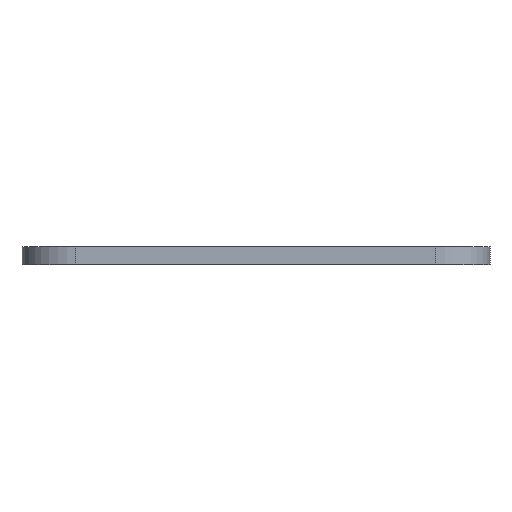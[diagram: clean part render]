
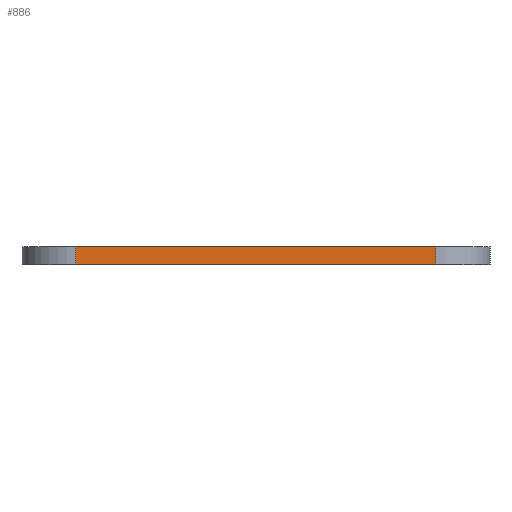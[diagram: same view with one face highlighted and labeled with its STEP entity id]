
A CAD part, left-side view. The second image highlights one B-rep face of the part: STEP entity #886.
In plain terms, the highlighted planar face has unit normal (-1, 0, 0).
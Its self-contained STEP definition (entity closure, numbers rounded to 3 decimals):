
#101 = ORIENTED_EDGE ( 'NONE', *, *, #329, .T. ) ;
#122 = LINE ( 'NONE', #1086, #1110 ) ;
#153 = LINE ( 'NONE', #161, #705 ) ;
#161 = CARTESIAN_POINT ( 'NONE',  ( -95., -50., 5. ) ) ;
#173 = VERTEX_POINT ( 'NONE', #655 ) ;
#227 = VECTOR ( 'NONE', #510, 1000. ) ;
#242 = DIRECTION ( 'NONE',  ( 0., 1., 0. ) ) ;
#250 = CARTESIAN_POINT ( 'NONE',  ( -95., -50., 5. ) ) ;
#301 = DIRECTION ( 'NONE',  ( 0., 0., -1. ) ) ;
#329 = EDGE_CURVE ( 'NONE', #610, #846, #122, .T. ) ;
#338 = EDGE_CURVE ( 'NONE', #173, #610, #638, .T. ) ;
#363 = ORIENTED_EDGE ( 'NONE', *, *, #1038, .F. ) ;
#407 = CARTESIAN_POINT ( 'NONE',  ( -95., 65., 5. ) ) ;
#439 = FACE_OUTER_BOUND ( 'NONE', #931, .T. ) ;
#510 = DIRECTION ( 'NONE',  ( 0., -1., 0. ) ) ;
#610 = VERTEX_POINT ( 'NONE', #740 ) ;
#638 = LINE ( 'NONE', #989, #977 ) ;
#655 = CARTESIAN_POINT ( 'NONE',  ( -95., 50., 5. ) ) ;
#705 = VECTOR ( 'NONE', #836, 1000. ) ;
#740 = CARTESIAN_POINT ( 'NONE',  ( -95., 50., 0. ) ) ;
#766 = ORIENTED_EDGE ( 'NONE', *, *, #338, .T. ) ;
#771 = CARTESIAN_POINT ( 'NONE',  ( -95., -50., 0. ) ) ;
#801 = CARTESIAN_POINT ( 'NONE',  ( -95., 65., 5. ) ) ;
#811 = AXIS2_PLACEMENT_3D ( 'NONE', #407, #929, #242 ) ;
#836 = DIRECTION ( 'NONE',  ( 0., 0., 1. ) ) ;
#846 = VERTEX_POINT ( 'NONE', #771 ) ;
#868 = ORIENTED_EDGE ( 'NONE', *, *, #904, .T. ) ;
#880 = LINE ( 'NONE', #801, #227 ) ;
#886 = ADVANCED_FACE ( 'NONE', ( #439 ), #1049, .F. ) ;
#904 = EDGE_CURVE ( 'NONE', #846, #917, #153, .T. ) ;
#914 = DIRECTION ( 'NONE',  ( 0., -1., 0. ) ) ;
#917 = VERTEX_POINT ( 'NONE', #250 ) ;
#929 = DIRECTION ( 'NONE',  ( 1., 0., 0. ) ) ;
#931 = EDGE_LOOP ( 'NONE', ( #101, #868, #363, #766 ) ) ;
#977 = VECTOR ( 'NONE', #301, 1000. ) ;
#989 = CARTESIAN_POINT ( 'NONE',  ( -95., 50., 5. ) ) ;
#1038 = EDGE_CURVE ( 'NONE', #173, #917, #880, .T. ) ;
#1049 = PLANE ( 'NONE',  #811 ) ;
#1086 = CARTESIAN_POINT ( 'NONE',  ( -95., 65., 0. ) ) ;
#1110 = VECTOR ( 'NONE', #914, 1000. ) ;
